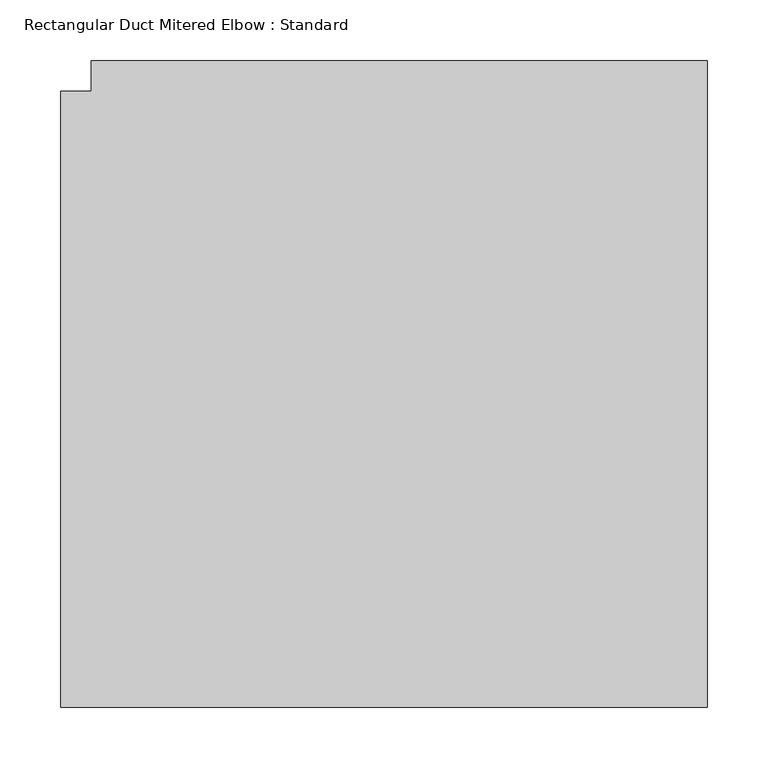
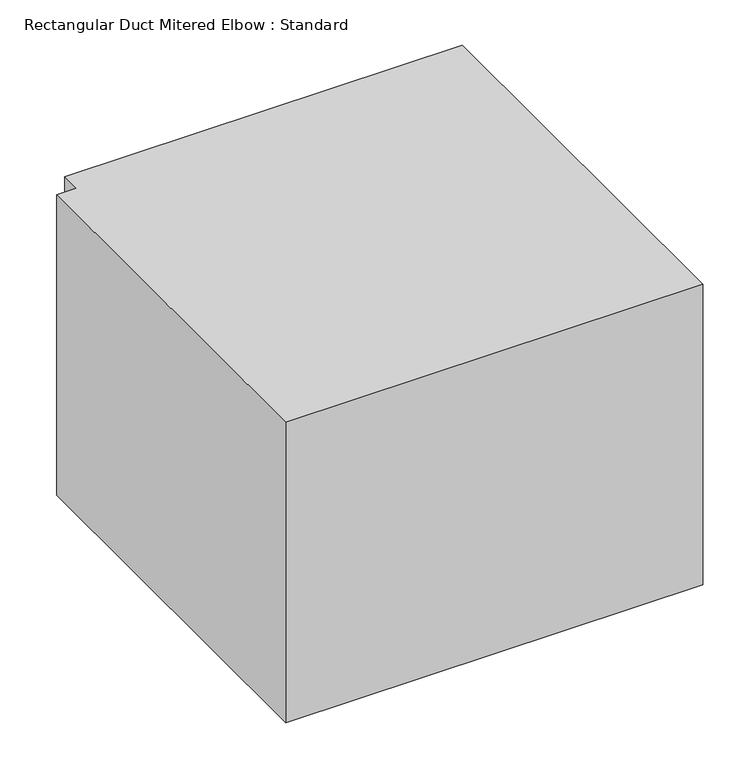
"""IFC4 building model written with IfcOpenShell, lengths in millimetres: duct fitting geometry, Rectangular Duct Mitered Elbow : Standard."""

from ifc_helpers import new_model, si_unit, frame, origin, place, context, project, spatial, polyline, outline, extrude, source, transform, mapped, element, save


def rectangular_duct_mitered_elbow_standard_69e3689b(model_context):
    return source(origin(), model_context, "Body", "SweptSolid", [
        extrude(outline(polyline([(-279.4, -254.0), (-279.4, 254.0), (-254.0, 254.0), (-254.0, 279.4), (254.0, 279.4), (254.0, -254.0), (-279.4, -254.0)])), frame((0.0, 0.0, -203.2), z_axis=(0.0, 0.0, 1.0), x_axis=(1.0, 0.0, 0.0)), (0.0, 0.0, 1.0), 406.4),
        extrude(outline(polyline([(-279.4, -254.0), (-279.4, 254.0), (-254.0, 254.0), (-254.0, 279.4), (254.0, 279.4), (254.0, -254.0), (-279.4, -254.0)])), frame((0.0, 0.0, -203.2), z_axis=(0.0, 0.0, 1.0), x_axis=(1.0, 0.0, 0.0)), (0.0, 0.0, 1.0), 406.4),
        extrude(outline(polyline([(-279.4, -254.0), (-279.4, 254.0), (-254.0, 254.0), (-254.0, 279.4), (254.0, 279.4), (254.0, -254.0), (-279.4, -254.0)])), frame((0.0, 0.0, -203.2), z_axis=(0.0, 0.0, 1.0), x_axis=(1.0, 0.0, 0.0)), (0.0, 0.0, 1.0), 406.4),
    ])


if __name__ == "__main__":
    model = new_model("IFC4")
    model_context = context("Model", 3, world=origin())
    ifc_project = project(units=[si_unit("LENGTHUNIT", "METRE", prefix="MILLI")], contexts=[model_context])
    site = spatial("IfcSite", under=ifc_project)
    building = spatial("IfcBuilding", under=site)
    placement = place(None, origin())
    rectangular_duct_mitered_elbow_standard_shape = rectangular_duct_mitered_elbow_standard_69e3689b(model_context)
    element("IfcDuctFitting", 1, ObjectType="Rectangular Duct Mitered Elbow : Standard", at=placement, inside=building, context=model_context, shape_type="MappedRepresentation", body=[
        mapped(rectangular_duct_mitered_elbow_standard_shape, transform((0.0, 0.0, 0.0), x_axis=(1.0, 0.0, 0.0), y_axis=(0.0, 1.0, 0.0), z_axis=(0.0, 0.0, 1.0))),
    ])
    save(model, "model.ifc")
